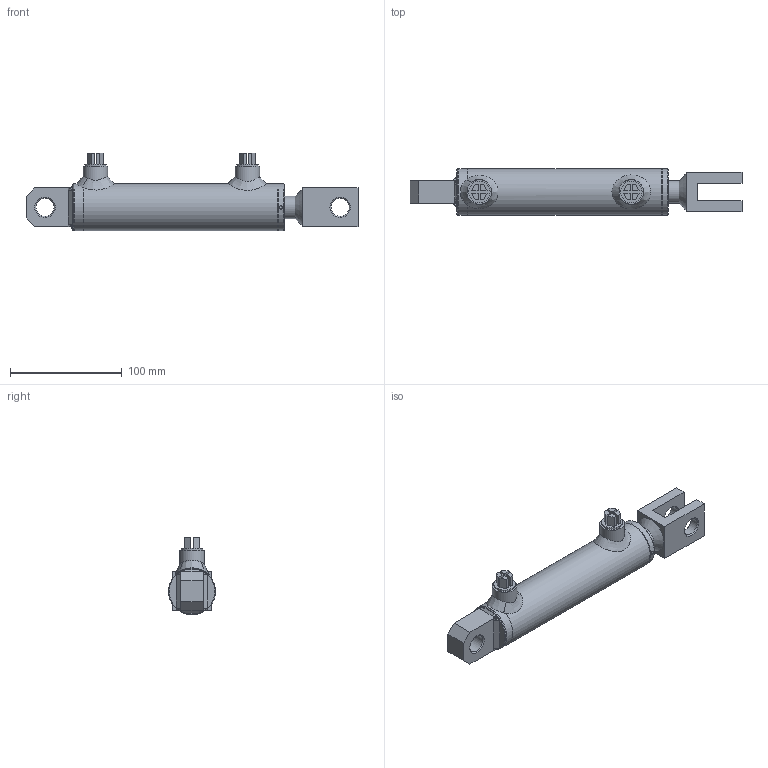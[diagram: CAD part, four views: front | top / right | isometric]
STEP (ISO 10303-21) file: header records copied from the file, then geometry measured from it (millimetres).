
FILE_DESCRIPTION( ( 'Unknown' ), '1' );
FILE_NAME( 'E:/LIBRERIA_3d/CILINDRI/HM5/HM5032200100.stp', 'Unknown', ( 'Unknown' ), ( 'Unknown' ), 'PSStep 17.0.49', 'Unknown', ' ' );
FILE_SCHEMA( ( 'AUTOMOTIVE_DESIGN { 1 0 10303 214 1 1 1 1 }' ) );
Length unit declared in the file: millimetre
Products named in the file (32): CT00032015; STFR032050100-oa7; Saldatura d'angolo 1-oa5; MAT_PRIMA_TUBO_FT04203200-oa6; CBSC220400; CG04203220; HM0032200100; Saldatura con preparazione 1-oa3; Saldatura d'angolo 1-oa4; CF00032042; CDA0001415; SBL0200320100; APSEP43519; Assem1; CSCS004010; CFS0000016; COF1600000; Saldatura d'angolo 1-oa0; Saldatura d'angolo 2-oa1; Saldatura d'angolo 3-oa2
Assembly tree (20 placements, depth 4):
  Saldatura d'angolo 1-oa5
  Saldatura d'angolo 1-oa5
  Saldatura d'angolo 1-oa4
  Saldatura d'angolo 1-oa4
  Assem1
    CSCS004010  x2
    CFS0000016
    COF1600000
    HM0032200100
      Saldatura con preparazione 1-oa3
      Saldatura con preparazione 1-oa3
      CF00032042
      CDA0001415
      SBL0200320100
      CBSC220400
      APSEP43519  x2
      CG04203220
        CG04203220
      CT00032015
        CT00032015
      STFR032050100-oa7
        MAT_PRIMA_TUBO_FT04203200-oa6
        CBSC220400
Bounding box: 297 x 42 x 69.5 mm (x, y, z)
Volume: 280437.9 mm3; surface area: 118990 mm2
Topology: 30 solids, 30 shells, 365 faces, 813 edges, 525 vertices
Faces by surface type: plane 156, cylinder 67, cone 60, bspline 50, torus 32
Full cylindrical faces by diameter (mm): 3 x2, 4 x2, 4.25 x3, 5 x2, 7.5 x2, 11.445 x2, 13.157 x2, 14 x2, 15 x3, 16.2 x3, 19.2 x2, 19.5 x1, 20 x6, 22 x4, 23 x1, 24 x1, 28 x3, 28.3 x1, 28.6 x1, 31.4 x2, 31.9 x1, 32 x1, 32.3 x1, 32.5 x1, 32.6 x1, 33 x1, 34 x3, 34.376 x1, 36 x1, 42 x5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
Entity records: 13938 total; most frequent: CARTESIAN_POINT 5202, DIRECTION 1176, ORIENTED_EDGE 1054, EDGE_CURVE 527, EDGE_LOOP 508, AXIS2_PLACEMENT_3D 504, FACE_OUTER_BOUND 417, VERTEX_POINT 414
